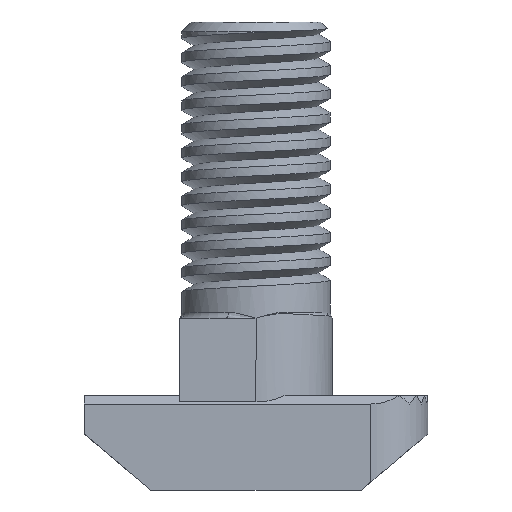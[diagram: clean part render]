
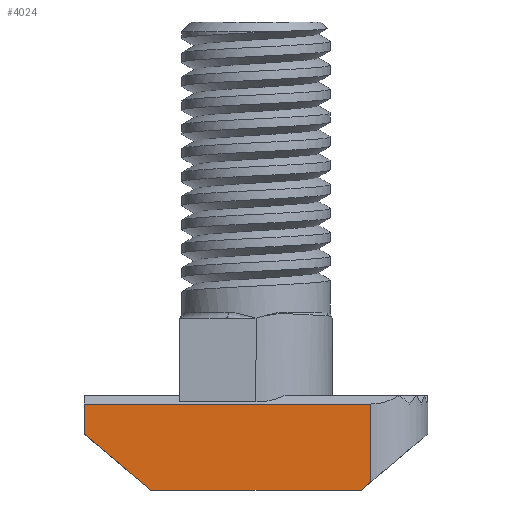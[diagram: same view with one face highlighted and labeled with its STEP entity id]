
A CAD part, front view. The second image highlights one B-rep face of the part: STEP entity #4024.
In plain terms, the highlighted planar face has unit normal (0, -1, 0).
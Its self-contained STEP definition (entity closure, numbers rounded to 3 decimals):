
#79 = PLANE ( 'NONE',  #3650 ) ;
#151 = VECTOR ( 'NONE', #449, 1000. ) ;
#179 = LINE ( 'NONE', #3117, #151 ) ;
#209 = CARTESIAN_POINT ( 'NONE',  ( 6., -3.353, 4.5 ) ) ;
#371 = VERTEX_POINT ( 'NONE', #4875 ) ;
#449 = DIRECTION ( 'NONE',  ( 0.766, 0., -0.643 ) ) ;
#457 = EDGE_CURVE ( 'NONE', #2268, #2384, #3629, .T. ) ;
#470 = DIRECTION ( 'NONE',  ( -1., 0., 0. ) ) ;
#573 = LINE ( 'NONE', #209, #589 ) ;
#580 = DIRECTION ( 'NONE',  ( 0., 0., 1. ) ) ;
#589 = VECTOR ( 'NONE', #580, 1000. ) ;
#730 = FACE_OUTER_BOUND ( 'NONE', #1467, .T. ) ;
#820 = CARTESIAN_POINT ( 'NONE',  ( -5.5, -3.353, 0. ) ) ;
#1114 = ORIENTED_EDGE ( 'NONE', *, *, #457, .T. ) ;
#1195 = CARTESIAN_POINT ( 'NONE',  ( -9., -3.353, 4.5 ) ) ;
#1215 = VERTEX_POINT ( 'NONE', #2881 ) ;
#1249 = CARTESIAN_POINT ( 'NONE',  ( -9., -3.353, 4.5 ) ) ;
#1329 = LINE ( 'NONE', #2352, #1385 ) ;
#1385 = VECTOR ( 'NONE', #4582, 1000. ) ;
#1391 = DIRECTION ( 'NONE',  ( 0., 0., -1. ) ) ;
#1467 = EDGE_LOOP ( 'NONE', ( #2329, #4217, #3854, #1114, #2927, #2225 ) ) ;
#1685 = CARTESIAN_POINT ( 'NONE',  ( -9., -3.353, 4.5 ) ) ;
#1689 = EDGE_CURVE ( 'NONE', #371, #2077, #4463, .T. ) ;
#1865 = EDGE_CURVE ( 'NONE', #1899, #371, #4585, .T. ) ;
#1899 = VERTEX_POINT ( 'NONE', #820 ) ;
#1975 = DIRECTION ( 'NONE',  ( 1., 0., 0. ) ) ;
#2077 = VERTEX_POINT ( 'NONE', #2844 ) ;
#2225 = ORIENTED_EDGE ( 'NONE', *, *, #1865, .T. ) ;
#2268 = VERTEX_POINT ( 'NONE', #1685 ) ;
#2329 = ORIENTED_EDGE ( 'NONE', *, *, #1689, .T. ) ;
#2352 = CARTESIAN_POINT ( 'NONE',  ( -9., -3.353, 4.5 ) ) ;
#2384 = VERTEX_POINT ( 'NONE', #4734 ) ;
#2707 = DIRECTION ( 'NONE',  ( 0.766, 0., 0.643 ) ) ;
#2734 = DIRECTION ( 'NONE',  ( 0., 1., 0. ) ) ;
#2844 = CARTESIAN_POINT ( 'NONE',  ( 6., -3.353, 0.42 ) ) ;
#2881 = CARTESIAN_POINT ( 'NONE',  ( 6., -3.353, 4.5 ) ) ;
#2927 = ORIENTED_EDGE ( 'NONE', *, *, #4769, .T. ) ;
#3117 = CARTESIAN_POINT ( 'NONE',  ( -9., -3.353, 2.937 ) ) ;
#3629 = LINE ( 'NONE', #1249, #3658 ) ;
#3650 = AXIS2_PLACEMENT_3D ( 'NONE', #1195, #2734, #470 ) ;
#3658 = VECTOR ( 'NONE', #1391, 1000. ) ;
#3854 = ORIENTED_EDGE ( 'NONE', *, *, #3994, .F. ) ;
#3883 = CARTESIAN_POINT ( 'NONE',  ( -9., -3.353, 0. ) ) ;
#3994 = EDGE_CURVE ( 'NONE', #2268, #1215, #1329, .T. ) ;
#4024 = ADVANCED_FACE ( 'NONE', ( #730 ), #79, .F. ) ;
#4217 = ORIENTED_EDGE ( 'NONE', *, *, #4285, .T. ) ;
#4285 = EDGE_CURVE ( 'NONE', #2077, #1215, #573, .T. ) ;
#4463 = LINE ( 'NONE', #4723, #4482 ) ;
#4482 = VECTOR ( 'NONE', #2707, 1000. ) ;
#4582 = DIRECTION ( 'NONE',  ( 1., 0., 0. ) ) ;
#4585 = LINE ( 'NONE', #3883, #4588 ) ;
#4588 = VECTOR ( 'NONE', #1975, 1000. ) ;
#4723 = CARTESIAN_POINT ( 'NONE',  ( 9., -3.353, 2.937 ) ) ;
#4734 = CARTESIAN_POINT ( 'NONE',  ( -9., -3.353, 2.937 ) ) ;
#4769 = EDGE_CURVE ( 'NONE', #2384, #1899, #179, .T. ) ;
#4875 = CARTESIAN_POINT ( 'NONE',  ( 5.5, -3.353, 0. ) ) ;
